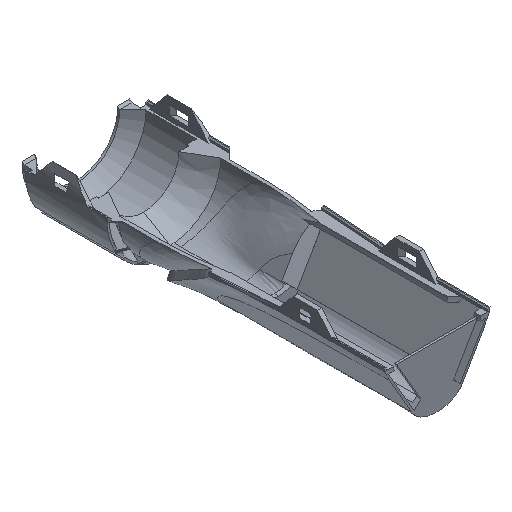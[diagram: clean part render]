
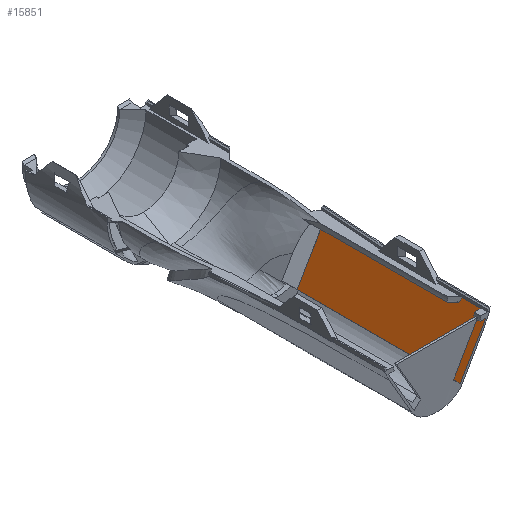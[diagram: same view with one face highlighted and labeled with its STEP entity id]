
A CAD part, isometric view. The second image highlights one B-rep face of the part: STEP entity #15851.
In plain terms, the highlighted planar face has unit normal (-0.866, 0, 0.5).
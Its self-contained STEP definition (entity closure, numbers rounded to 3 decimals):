
#470 = VECTOR ( 'NONE', #22635, 1000. ) ;
#867 = ORIENTED_EDGE ( 'NONE', *, *, #18405, .T. ) ;
#962 = EDGE_CURVE ( 'NONE', #12129, #25924, #31908, .T. ) ;
#1350 = VECTOR ( 'NONE', #4577, 1000. ) ;
#1675 = DIRECTION ( 'NONE',  ( 0.5, 0., 0.866 ) ) ;
#1813 = CARTESIAN_POINT ( 'NONE',  ( 17.537, -165., -10.125 ) ) ;
#2878 = VECTOR ( 'NONE', #15225, 1000. ) ;
#3938 = VERTEX_POINT ( 'NONE', #6332 ) ;
#4409 = LINE ( 'NONE', #27116, #1350 ) ;
#4537 = FACE_OUTER_BOUND ( 'NONE', #32889, .T. ) ;
#4577 = DIRECTION ( 'NONE',  ( 0., -1., 0. ) ) ;
#5112 = VECTOR ( 'NONE', #29616, 1000. ) ;
#6332 = CARTESIAN_POINT ( 'NONE',  ( 23.166, -153.209, -0.375 ) ) ;
#6691 = CARTESIAN_POINT ( 'NONE',  ( 15.857, -162., -13.035 ) ) ;
#6714 = PLANE ( 'NONE',  #26873 ) ;
#7898 = VERTEX_POINT ( 'NONE', #32886 ) ;
#8701 = ORIENTED_EDGE ( 'NONE', *, *, #21998, .T. ) ;
#9093 = VERTEX_POINT ( 'NONE', #11696 ) ;
#9872 = EDGE_CURVE ( 'NONE', #3938, #9093, #29773, .T. ) ;
#10209 = CARTESIAN_POINT ( 'NONE',  ( 22.547, -152.734, -1.448 ) ) ;
#11115 = LINE ( 'NONE', #16617, #5112 ) ;
#11696 = CARTESIAN_POINT ( 'NONE',  ( 22.228, -152.551, -2. ) ) ;
#12129 = VERTEX_POINT ( 'NONE', #21455 ) ;
#12478 = LINE ( 'NONE', #12648, #26983 ) ;
#12648 = CARTESIAN_POINT ( 'NONE',  ( 23.166, -162., -0.375 ) ) ;
#13041 = CARTESIAN_POINT ( 'NONE',  ( 22.859, -152.957, -0.906 ) ) ;
#13636 = ORIENTED_EDGE ( 'NONE', *, *, #962, .T. ) ;
#14789 = CARTESIAN_POINT ( 'NONE',  ( 22.228, -66.393, -2. ) ) ;
#15015 = DIRECTION ( 'NONE',  ( 0.5, 0., 0.866 ) ) ;
#15034 = VERTEX_POINT ( 'NONE', #22362 ) ;
#15064 = DIRECTION ( 'NONE',  ( 0.866, 0., -0.5 ) ) ;
#15225 = DIRECTION ( 'NONE',  ( -0.5, 0., -0.866 ) ) ;
#15230 = VECTOR ( 'NONE', #15015, 1000. ) ;
#15548 = CARTESIAN_POINT ( 'NONE',  ( 23.166, -153.209, -0.375 ) ) ;
#15851 = ADVANCED_FACE ( 'NONE', ( #4537 ), #6714, .F. ) ;
#16083 = EDGE_CURVE ( 'NONE', #16646, #7898, #31063, .T. ) ;
#16617 = CARTESIAN_POINT ( 'NONE',  ( 10.557, -66.393, -22.214 ) ) ;
#16646 = VERTEX_POINT ( 'NONE', #17197 ) ;
#17197 = CARTESIAN_POINT ( 'NONE',  ( 22.228, -90.5, -2. ) ) ;
#17636 = VECTOR ( 'NONE', #1675, 1000. ) ;
#17739 = CARTESIAN_POINT ( 'NONE',  ( 17.537, -90.5, -10.125 ) ) ;
#18405 = EDGE_CURVE ( 'NONE', #25924, #3938, #12478, .T. ) ;
#19579 = DIRECTION ( 'NONE',  ( -0.5, 0., -0.866 ) ) ;
#19850 = LINE ( 'NONE', #1813, #15230 ) ;
#20753 = EDGE_CURVE ( 'NONE', #15034, #30575, #19850, .T. ) ;
#21455 = CARTESIAN_POINT ( 'NONE',  ( 22.228, -162., -2. ) ) ;
#21998 = EDGE_CURVE ( 'NONE', #7898, #15034, #11115, .T. ) ;
#22362 = CARTESIAN_POINT ( 'NONE',  ( 10.557, -165., -22.214 ) ) ;
#22408 = EDGE_CURVE ( 'NONE', #12129, #30575, #4409, .T. ) ;
#22635 = DIRECTION ( 'NONE',  ( 0., -1., 0. ) ) ;
#22999 = DIRECTION ( 'NONE',  ( 0., 1., 0. ) ) ;
#25303 = LINE ( 'NONE', #14789, #470 ) ;
#25745 = CARTESIAN_POINT ( 'NONE',  ( 23.166, -162., -0.375 ) ) ;
#25924 = VERTEX_POINT ( 'NONE', #25745 ) ;
#26311 = ORIENTED_EDGE ( 'NONE', *, *, #16083, .T. ) ;
#26873 = AXIS2_PLACEMENT_3D ( 'NONE', #32094, #15064, #19579 ) ;
#26983 = VECTOR ( 'NONE', #22999, 1000. ) ;
#27116 = CARTESIAN_POINT ( 'NONE',  ( 22.228, -66.393, -2. ) ) ;
#27361 = EDGE_CURVE ( 'NONE', #16646, #9093, #25303, .T. ) ;
#27378 = CARTESIAN_POINT ( 'NONE',  ( 22.228, -165., -2. ) ) ;
#27954 = ORIENTED_EDGE ( 'NONE', *, *, #22408, .F. ) ;
#28480 = ORIENTED_EDGE ( 'NONE', *, *, #20753, .T. ) ;
#29203 = ORIENTED_EDGE ( 'NONE', *, *, #27361, .F. ) ;
#29616 = DIRECTION ( 'NONE',  ( 0., -1., 0. ) ) ;
#29773 = B_SPLINE_CURVE_WITH_KNOTS ( 'NONE', 3,
 ( #15548, #13041, #10209, #30895 ),
 .UNSPECIFIED., .F., .F.,
 ( 4, 4 ),
 ( -0.001, 0.001 ),
 .UNSPECIFIED. ) ;
#30575 = VERTEX_POINT ( 'NONE', #27378 ) ;
#30895 = CARTESIAN_POINT ( 'NONE',  ( 22.228, -152.551, -2. ) ) ;
#31063 = LINE ( 'NONE', #17739, #2878 ) ;
#31747 = ORIENTED_EDGE ( 'NONE', *, *, #9872, .T. ) ;
#31908 = LINE ( 'NONE', #6691, #17636 ) ;
#32094 = CARTESIAN_POINT ( 'NONE',  ( 17.537, -66.393, -10.125 ) ) ;
#32886 = CARTESIAN_POINT ( 'NONE',  ( 10.557, -90.5, -22.214 ) ) ;
#32889 = EDGE_LOOP ( 'NONE', ( #867, #31747, #29203, #26311, #8701, #28480, #27954, #13636 ) ) ;
